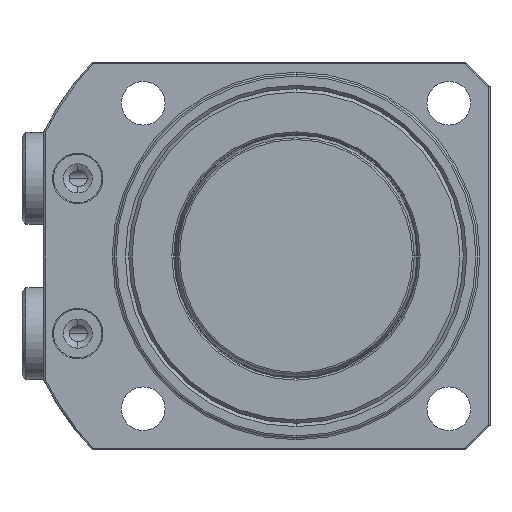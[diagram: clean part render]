
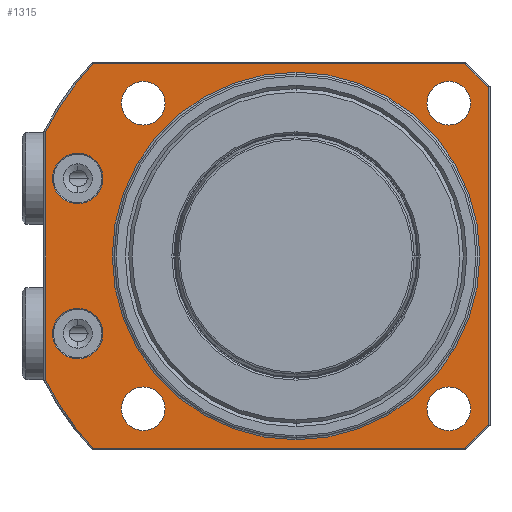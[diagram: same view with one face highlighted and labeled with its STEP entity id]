
A CAD part, front view. The second image highlights one B-rep face of the part: STEP entity #1315.
In plain terms, the highlighted planar face has unit normal (0, -1, 0) as drawn and (1, 0, 0) by its records, which use the part's own axes.
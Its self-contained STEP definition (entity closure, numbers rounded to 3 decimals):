
#1008=PLANE('',#4784);
#1047=FACE_BOUND('',#1803,.T.);
#1048=FACE_BOUND('',#1804,.T.);
#1049=FACE_BOUND('',#1805,.T.);
#1050=FACE_BOUND('',#1806,.T.);
#1051=FACE_BOUND('',#1807,.T.);
#1052=FACE_BOUND('',#1808,.T.);
#1053=FACE_BOUND('',#1809,.T.);
#1054=FACE_BOUND('',#1810,.T.);
#1315=ADVANCED_FACE('',(#1047,#1048,#1049,#1050,#1051,#1052,#1053,#1054),
#1008,.F.);
#1803=EDGE_LOOP('',(#3043,#3044));
#1804=EDGE_LOOP('',(#3045,#3046));
#1805=EDGE_LOOP('',(#3047,#3048,#3049,#3050,#3051,#3052,#3053,#3054));
#1806=EDGE_LOOP('',(#3055,#3056));
#1807=EDGE_LOOP('',(#3057,#3058));
#1808=EDGE_LOOP('',(#3059,#3060));
#1809=EDGE_LOOP('',(#3061,#3062));
#1810=EDGE_LOOP('',(#3063,#3064));
#2070=LINE('',#7517,#2271);
#2071=LINE('',#7520,#2272);
#2072=LINE('',#7522,#2273);
#2073=LINE('',#7524,#2274);
#2074=LINE('',#7526,#2275);
#2075=LINE('',#7530,#2276);
#2271=VECTOR('',#5755,1.);
#2272=VECTOR('',#5756,1.);
#2273=VECTOR('',#5757,1.);
#2274=VECTOR('',#5758,1.);
#2275=VECTOR('',#5759,1.);
#2276=VECTOR('',#5762,1.);
#3043=ORIENTED_EDGE('',*,*,#3981,.T.);
#3044=ORIENTED_EDGE('',*,*,#4120,.T.);
#3045=ORIENTED_EDGE('',*,*,#3977,.T.);
#3046=ORIENTED_EDGE('',*,*,#4121,.T.);
#3047=ORIENTED_EDGE('',*,*,#4122,.T.);
#3048=ORIENTED_EDGE('',*,*,#4123,.T.);
#3049=ORIENTED_EDGE('',*,*,#4124,.T.);
#3050=ORIENTED_EDGE('',*,*,#4125,.T.);
#3051=ORIENTED_EDGE('',*,*,#4126,.T.);
#3052=ORIENTED_EDGE('',*,*,#4127,.T.);
#3053=ORIENTED_EDGE('',*,*,#4128,.T.);
#3054=ORIENTED_EDGE('',*,*,#4129,.T.);
#3055=ORIENTED_EDGE('',*,*,#4130,.T.);
#3056=ORIENTED_EDGE('',*,*,#3987,.T.);
#3057=ORIENTED_EDGE('',*,*,#4131,.T.);
#3058=ORIENTED_EDGE('',*,*,#4075,.T.);
#3059=ORIENTED_EDGE('',*,*,#4132,.T.);
#3060=ORIENTED_EDGE('',*,*,#4083,.T.);
#3061=ORIENTED_EDGE('',*,*,#4133,.T.);
#3062=ORIENTED_EDGE('',*,*,#4091,.T.);
#3063=ORIENTED_EDGE('',*,*,#4134,.T.);
#3064=ORIENTED_EDGE('',*,*,#4099,.T.);
#3538=VERTEX_POINT('',#6984);
#3539=VERTEX_POINT('',#6986);
#3542=VERTEX_POINT('',#6993);
#3543=VERTEX_POINT('',#6995);
#3548=VERTEX_POINT('',#7008);
#3549=VERTEX_POINT('',#7009);
#3618=VERTEX_POINT('',#7362);
#3619=VERTEX_POINT('',#7363);
#3626=VERTEX_POINT('',#7389);
#3627=VERTEX_POINT('',#7390);
#3634=VERTEX_POINT('',#7416);
#3635=VERTEX_POINT('',#7417);
#3642=VERTEX_POINT('',#7443);
#3643=VERTEX_POINT('',#7444);
#3654=VERTEX_POINT('',#7518);
#3655=VERTEX_POINT('',#7519);
#3656=VERTEX_POINT('',#7521);
#3657=VERTEX_POINT('',#7523);
#3658=VERTEX_POINT('',#7525);
#3659=VERTEX_POINT('',#7527);
#3660=VERTEX_POINT('',#7529);
#3661=VERTEX_POINT('',#7531);
#3977=EDGE_CURVE('',#3539,#3538,#4330,.T.);
#3981=EDGE_CURVE('',#3543,#3542,#4332,.T.);
#3987=EDGE_CURVE('',#3548,#3549,#4337,.T.);
#4075=EDGE_CURVE('',#3618,#3619,#4374,.T.);
#4083=EDGE_CURVE('',#3626,#3627,#4377,.T.);
#4091=EDGE_CURVE('',#3634,#3635,#4380,.T.);
#4099=EDGE_CURVE('',#3642,#3643,#4383,.T.);
#4120=EDGE_CURVE('',#3542,#3543,#4391,.T.);
#4121=EDGE_CURVE('',#3538,#3539,#4392,.T.);
#4122=EDGE_CURVE('',#3654,#3655,#2070,.T.);
#4123=EDGE_CURVE('',#3655,#3656,#2071,.T.);
#4124=EDGE_CURVE('',#3656,#3657,#2072,.T.);
#4125=EDGE_CURVE('',#3657,#3658,#2073,.T.);
#4126=EDGE_CURVE('',#3658,#3659,#2074,.T.);
#4127=EDGE_CURVE('',#3659,#3660,#4393,.T.);
#4128=EDGE_CURVE('',#3660,#3661,#2075,.T.);
#4129=EDGE_CURVE('',#3661,#3654,#4394,.T.);
#4130=EDGE_CURVE('',#3549,#3548,#4395,.T.);
#4131=EDGE_CURVE('',#3619,#3618,#4396,.T.);
#4132=EDGE_CURVE('',#3627,#3626,#4397,.T.);
#4133=EDGE_CURVE('',#3635,#3634,#4398,.T.);
#4134=EDGE_CURVE('',#3643,#3642,#4399,.T.);
#4330=CIRCLE('',#4678,5.2);
#4332=CIRCLE('',#4681,5.2);
#4337=CIRCLE('',#4688,37.9);
#4374=CIRCLE('',#4747,4.5);
#4377=CIRCLE('',#4752,4.5);
#4380=CIRCLE('',#4757,4.5);
#4383=CIRCLE('',#4762,4.5);
#4391=CIRCLE('',#4775,5.2);
#4392=CIRCLE('',#4776,5.2);
#4393=CIRCLE('',#4777,57.6);
#4394=CIRCLE('',#4778,57.6);
#4395=CIRCLE('',#4779,37.9);
#4396=CIRCLE('',#4780,4.5);
#4397=CIRCLE('',#4781,4.5);
#4398=CIRCLE('',#4782,4.5);
#4399=CIRCLE('',#4783,4.5);
#4678=AXIS2_PLACEMENT_3D('',#6985,#5498,#5499);
#4681=AXIS2_PLACEMENT_3D('',#6994,#5506,#5507);
#4688=AXIS2_PLACEMENT_3D('',#7007,#5521,#5522);
#4747=AXIS2_PLACEMENT_3D('',#7361,#5677,#5678);
#4752=AXIS2_PLACEMENT_3D('',#7388,#5691,#5692);
#4757=AXIS2_PLACEMENT_3D('',#7415,#5705,#5706);
#4762=AXIS2_PLACEMENT_3D('',#7442,#5719,#5720);
#4775=AXIS2_PLACEMENT_3D('',#7515,#5751,#5752);
#4776=AXIS2_PLACEMENT_3D('',#7516,#5753,#5754);
#4777=AXIS2_PLACEMENT_3D('',#7528,#5760,#5761);
#4778=AXIS2_PLACEMENT_3D('',#7532,#5763,#5764);
#4779=AXIS2_PLACEMENT_3D('',#7533,#5765,#5766);
#4780=AXIS2_PLACEMENT_3D('',#7534,#5767,#5768);
#4781=AXIS2_PLACEMENT_3D('',#7535,#5769,#5770);
#4782=AXIS2_PLACEMENT_3D('',#7536,#5771,#5772);
#4783=AXIS2_PLACEMENT_3D('',#7537,#5773,#5774);
#4784=AXIS2_PLACEMENT_3D('',#7538,#5775,#5776);
#5498=DIRECTION('',(-1.,0.,0.));
#5499=DIRECTION('',(0.,0.,1.));
#5506=DIRECTION('',(-1.,0.,0.));
#5507=DIRECTION('',(0.,0.,1.));
#5521=DIRECTION('',(-1.,0.,0.));
#5522=DIRECTION('',(0.,0.,1.));
#5677=DIRECTION('',(-1.,0.,0.));
#5678=DIRECTION('',(0.,0.,1.));
#5691=DIRECTION('',(-1.,0.,0.));
#5692=DIRECTION('',(0.,0.,1.));
#5705=DIRECTION('',(-1.,0.,0.));
#5706=DIRECTION('',(0.,0.,1.));
#5719=DIRECTION('',(-1.,0.,0.));
#5720=DIRECTION('',(0.,0.,1.));
#5751=DIRECTION('',(-1.,0.,0.));
#5752=DIRECTION('',(0.,0.,1.));
#5753=DIRECTION('',(-1.,0.,0.));
#5754=DIRECTION('',(0.,0.,1.));
#5755=DIRECTION('',(0.,1.,0.));
#5756=DIRECTION('',(0.,0.707,0.707));
#5757=DIRECTION('',(0.,0.,1.));
#5758=DIRECTION('',(0.,-0.707,0.707));
#5759=DIRECTION('',(0.,-1.,0.));
#5760=DIRECTION('',(1.,0.,0.));
#5761=DIRECTION('',(0.,0.,1.));
#5762=DIRECTION('',(0.,0.,-1.));
#5763=DIRECTION('',(1.,0.,0.));
#5764=DIRECTION('',(0.,0.,1.));
#5765=DIRECTION('',(-1.,0.,0.));
#5766=DIRECTION('',(0.,0.,1.));
#5767=DIRECTION('',(-1.,0.,0.));
#5768=DIRECTION('',(0.,0.,1.));
#5769=DIRECTION('',(-1.,0.,0.));
#5770=DIRECTION('',(0.,0.,1.));
#5771=DIRECTION('',(-1.,0.,0.));
#5772=DIRECTION('',(0.,0.,1.));
#5773=DIRECTION('',(-1.,0.,0.));
#5774=DIRECTION('',(0.,0.,1.));
#5775=DIRECTION('',(-1.,0.,0.));
#5776=DIRECTION('',(0.,0.,-1.));
#6984=CARTESIAN_POINT('',(0.,-45.,21.2));
#6985=CARTESIAN_POINT('',(0.,-45.,16.));
#6986=CARTESIAN_POINT('',(0.,-45.,10.8));
#6993=CARTESIAN_POINT('',(0.,-45.,-10.8));
#6994=CARTESIAN_POINT('',(0.,-45.,-16.));
#6995=CARTESIAN_POINT('',(0.,-45.,-21.2));
#7007=CARTESIAN_POINT('',(0.,0.,0.));
#7008=CARTESIAN_POINT('',(0.,0.,-37.9));
#7009=CARTESIAN_POINT('',(0.,0.,37.9));
#7361=CARTESIAN_POINT('',(0.,31.5,31.5));
#7362=CARTESIAN_POINT('',(0.,31.5,27.));
#7363=CARTESIAN_POINT('',(0.,31.5,36.));
#7388=CARTESIAN_POINT('',(0.,31.5,-31.5));
#7389=CARTESIAN_POINT('',(0.,31.5,-36.));
#7390=CARTESIAN_POINT('',(0.,31.5,-27.));
#7415=CARTESIAN_POINT('',(0.,-31.5,-31.5));
#7416=CARTESIAN_POINT('',(0.,-31.5,-36.));
#7417=CARTESIAN_POINT('',(0.,-31.5,-27.));
#7442=CARTESIAN_POINT('',(0.,-31.5,31.5));
#7443=CARTESIAN_POINT('',(0.,-31.5,27.));
#7444=CARTESIAN_POINT('',(0.,-31.5,36.));
#7515=CARTESIAN_POINT('',(0.,-45.,-16.));
#7516=CARTESIAN_POINT('',(0.,-45.,16.));
#7517=CARTESIAN_POINT('',(0.,35.,-39.6));
#7518=CARTESIAN_POINT('',(0.,-41.828,-39.6));
#7519=CARTESIAN_POINT('',(0.,34.834,-39.6));
#7520=CARTESIAN_POINT('',(0.,39.717,-34.717));
#7521=CARTESIAN_POINT('',(0.,39.6,-34.834));
#7522=CARTESIAN_POINT('',(0.,39.6,35.));
#7523=CARTESIAN_POINT('',(0.,39.6,34.834));
#7524=CARTESIAN_POINT('',(0.,34.717,39.717));
#7525=CARTESIAN_POINT('',(0.,34.834,39.6));
#7526=CARTESIAN_POINT('',(0.,-42.,39.6));
#7527=CARTESIAN_POINT('',(0.,-41.828,39.6));
#7528=CARTESIAN_POINT('',(0.,0.,0.));
#7529=CARTESIAN_POINT('',(0.,-51.6,25.597));
#7530=CARTESIAN_POINT('',(0.,-51.6,-25.69));
#7531=CARTESIAN_POINT('',(0.,-51.6,-25.597));
#7532=CARTESIAN_POINT('',(0.,0.,0.));
#7533=CARTESIAN_POINT('',(0.,0.,0.));
#7534=CARTESIAN_POINT('',(0.,31.5,31.5));
#7535=CARTESIAN_POINT('',(0.,31.5,-31.5));
#7536=CARTESIAN_POINT('',(0.,-31.5,-31.5));
#7537=CARTESIAN_POINT('',(0.,-31.5,31.5));
#7538=CARTESIAN_POINT('',(0.,0.,0.));
